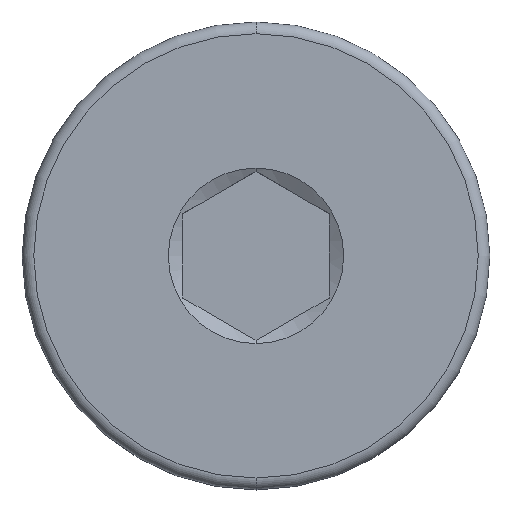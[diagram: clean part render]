
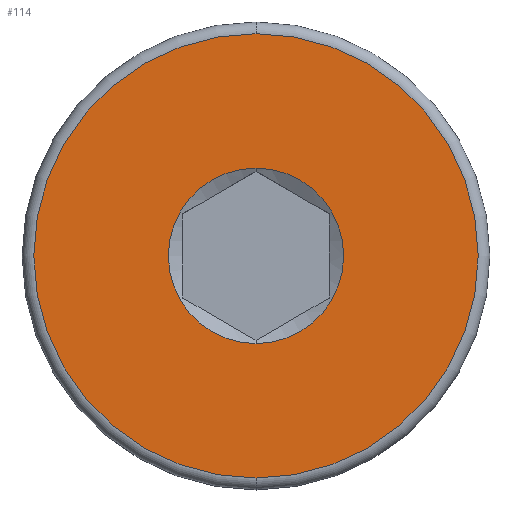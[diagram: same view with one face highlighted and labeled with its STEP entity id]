
A CAD part, top view. The second image highlights one B-rep face of the part: STEP entity #114.
In plain terms, the highlighted planar face has unit normal (0, 0, 1).
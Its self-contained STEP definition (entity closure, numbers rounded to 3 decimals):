
#2 = EDGE_CURVE ( 'NONE', #349, #86, #799, .T. ) ;
#22 = DIRECTION ( 'NONE',  ( 0., 0., 1. ) ) ;
#41 = DIRECTION ( 'NONE',  ( 0., -1., 0. ) ) ;
#52 = CARTESIAN_POINT ( 'NONE',  ( 0., -3.8, 2.5 ) ) ;
#65 = CARTESIAN_POINT ( 'NONE',  ( 0., 3.8, 2.5 ) ) ;
#68 = DIRECTION ( 'NONE',  ( 0., 1., 0. ) ) ;
#86 = VERTEX_POINT ( 'NONE', #65 ) ;
#99 = CARTESIAN_POINT ( 'NONE',  ( 0., -1.5, 2.5 ) ) ;
#106 = EDGE_LOOP ( 'NONE', ( #456, #188 ) ) ;
#113 = FACE_BOUND ( 'NONE', #673, .T. ) ;
#114 = ADVANCED_FACE ( 'NONE', ( #113, #243 ), #465, .F. ) ;
#155 = ORIENTED_EDGE ( 'NONE', *, *, #723, .F. ) ;
#167 = CIRCLE ( 'NONE', #816, 1.5 ) ;
#169 = AXIS2_PLACEMENT_3D ( 'NONE', #833, #430, #41 ) ;
#188 = ORIENTED_EDGE ( 'NONE', *, *, #764, .T. ) ;
#214 = DIRECTION ( 'NONE',  ( 0., 0., 1. ) ) ;
#226 = ORIENTED_EDGE ( 'NONE', *, *, #583, .F. ) ;
#243 = FACE_OUTER_BOUND ( 'NONE', #106, .T. ) ;
#258 = VERTEX_POINT ( 'NONE', #304 ) ;
#290 = CARTESIAN_POINT ( 'NONE',  ( 0., 0., 2.5 ) ) ;
#304 = CARTESIAN_POINT ( 'NONE',  ( 0., 1.5, 2.5 ) ) ;
#349 = VERTEX_POINT ( 'NONE', #52 ) ;
#361 = DIRECTION ( 'NONE',  ( 0., -1., 0. ) ) ;
#407 = CARTESIAN_POINT ( 'NONE',  ( 0., 0., 2.5 ) ) ;
#430 = DIRECTION ( 'NONE',  ( 0., 0., 1. ) ) ;
#456 = ORIENTED_EDGE ( 'NONE', *, *, #2, .T. ) ;
#465 = PLANE ( 'NONE',  #541 ) ;
#506 = AXIS2_PLACEMENT_3D ( 'NONE', #622, #214, #692 ) ;
#531 = DIRECTION ( 'NONE',  ( 0., 0., -1. ) ) ;
#541 = AXIS2_PLACEMENT_3D ( 'NONE', #735, #531, #68 ) ;
#543 = DIRECTION ( 'NONE',  ( 0., -1., 0. ) ) ;
#583 = EDGE_CURVE ( 'NONE', #645, #258, #769, .T. ) ;
#622 = CARTESIAN_POINT ( 'NONE',  ( 0., 0., 2.5 ) ) ;
#645 = VERTEX_POINT ( 'NONE', #99 ) ;
#651 = CIRCLE ( 'NONE', #169, 3.8 ) ;
#673 = EDGE_LOOP ( 'NONE', ( #226, #155 ) ) ;
#692 = DIRECTION ( 'NONE',  ( 0., -1., 0. ) ) ;
#723 = EDGE_CURVE ( 'NONE', #258, #645, #167, .T. ) ;
#735 = CARTESIAN_POINT ( 'NONE',  ( 0., 1.5, 2.5 ) ) ;
#764 = EDGE_CURVE ( 'NONE', #86, #349, #651, .T. ) ;
#767 = DIRECTION ( 'NONE',  ( 0., 0., 1. ) ) ;
#769 = CIRCLE ( 'NONE', #506, 1.5 ) ;
#799 = CIRCLE ( 'NONE', #830, 3.8 ) ;
#816 = AXIS2_PLACEMENT_3D ( 'NONE', #290, #767, #361 ) ;
#830 = AXIS2_PLACEMENT_3D ( 'NONE', #407, #22, #543 ) ;
#833 = CARTESIAN_POINT ( 'NONE',  ( 0., 0., 2.5 ) ) ;
